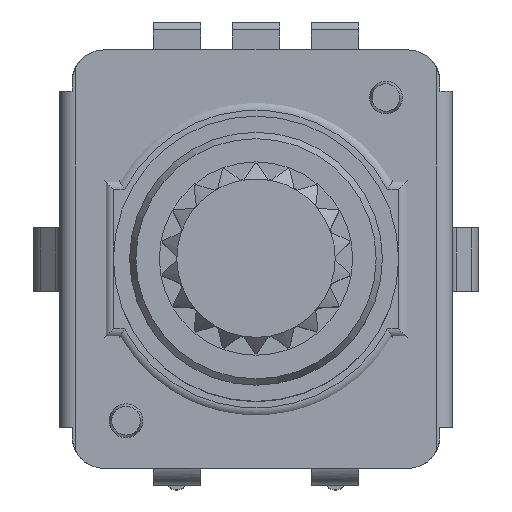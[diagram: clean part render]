
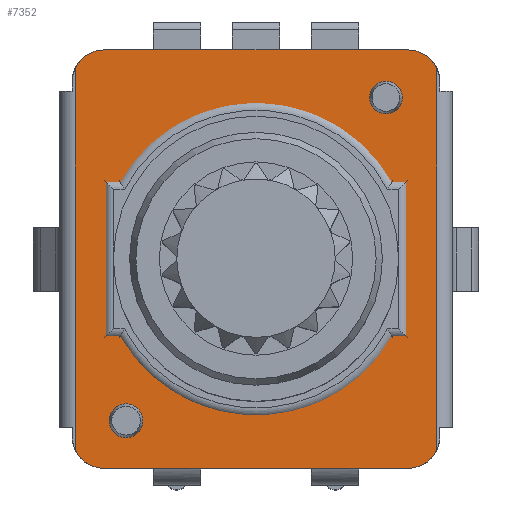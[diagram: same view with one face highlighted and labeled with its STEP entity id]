
A CAD part, top view. The second image highlights one B-rep face of the part: STEP entity #7352.
In plain terms, the highlighted planar face has unit normal (0, 0, 1).
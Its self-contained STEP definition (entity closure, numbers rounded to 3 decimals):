
#557=LINE($,#11437,#1389);
#575=LINE($,#11498,#1407);
#584=LINE($,#11532,#1416);
#585=LINE($,#11533,#1417);
#1389=VECTOR($,#9253,9.6);
#1407=VECTOR($,#9299,9.6);
#1416=VECTOR($,#9328,12.072);
#1417=VECTOR($,#9329,12.072);
#1905=PLANE($,#7890);
#2230=FACE_OUTER_BOUND($,#2605,.T.);
#2605=EDGE_LOOP($,(#5929,#5930,#5931,#5932,#5933,#5934,#5935,#5936));
#2885=CIRCLE($,#7865,1.);
#2886=CIRCLE($,#7869,1.);
#2891=CIRCLE($,#7879,1.);
#2892=CIRCLE($,#7882,1.);
#3434=VERTEX_POINT($,#11423);
#3436=VERTEX_POINT($,#11431);
#3437=VERTEX_POINT($,#11436);
#3440=VERTEX_POINT($,#11445);
#3452=VERTEX_POINT($,#11485);
#3453=VERTEX_POINT($,#11492);
#3454=VERTEX_POINT($,#11496);
#3456=VERTEX_POINT($,#11501);
#4375=EDGE_CURVE($,#3434,#3436,#2885,.T.);
#4378=EDGE_CURVE($,#3436,#3437,#557,.T.);
#4384=EDGE_CURVE($,#3437,#3440,#2886,.T.);
#4401=EDGE_CURVE($,#3452,#3453,#2891,.T.);
#4404=EDGE_CURVE($,#3453,#3454,#575,.T.);
#4407=EDGE_CURVE($,#3454,#3456,#2892,.T.);
#4419=EDGE_CURVE($,#3440,#3452,#584,.T.);
#4420=EDGE_CURVE($,#3456,#3434,#585,.T.);
#5929=ORIENTED_EDGE($,*,*,#4419,.F.);
#5930=ORIENTED_EDGE($,*,*,#4384,.F.);
#5931=ORIENTED_EDGE($,*,*,#4378,.F.);
#5932=ORIENTED_EDGE($,*,*,#4375,.F.);
#5933=ORIENTED_EDGE($,*,*,#4420,.F.);
#5934=ORIENTED_EDGE($,*,*,#4407,.F.);
#5935=ORIENTED_EDGE($,*,*,#4404,.F.);
#5936=ORIENTED_EDGE($,*,*,#4401,.F.);
#7352=ADVANCED_FACE($,(#2230),#1905,.T.);
#7865=AXIS2_PLACEMENT_3D($,#11432,#9247,#9248);
#7869=AXIS2_PLACEMENT_3D($,#11453,#9262,#9263);
#7879=AXIS2_PLACEMENT_3D($,#11493,#9293,#9294);
#7882=AXIS2_PLACEMENT_3D($,#11509,#9303,#9304);
#7890=AXIS2_PLACEMENT_3D($,#11531,#9326,#9327);
#9247=DIRECTION('center_axis',(0.,0.,
-1.));
#9248=DIRECTION('ref_axis',(0.707,-0.707,0.));
#9253=DIRECTION($,(-1.,0.,0.));
#9262=DIRECTION('center_axis',(0.,0.,
-1.));
#9263=DIRECTION('ref_axis',(-0.707,-0.707,0.));
#9293=DIRECTION('center_axis',(0.,0.,
-1.));
#9294=DIRECTION('ref_axis',(-0.707,0.707,0.));
#9299=DIRECTION($,(1.,0.,0.));
#9303=DIRECTION('center_axis',(0.,0.,
-1.));
#9304=DIRECTION('ref_axis',(0.707,0.707,0.));
#9326=DIRECTION('center_axis',(0.,0.,
1.));
#9327=DIRECTION('ref_axis',(1.,0.,0.));
#9328=DIRECTION($,(0.,1.,0.));
#9329=DIRECTION($,(0.,-1.,0.));
#11423=CARTESIAN_POINT('',(5.7,-6.036,6.6));
#11431=CARTESIAN_POINT('',(4.8,-6.6,6.6));
#11432=CARTESIAN_POINT('Origin',(4.8,-5.6,6.6));
#11436=CARTESIAN_POINT('',(-4.8,-6.6,6.6));
#11437=CARTESIAN_POINT($,(5.8,-6.6,6.6));
#11445=CARTESIAN_POINT('',(-5.7,-6.036,6.6));
#11453=CARTESIAN_POINT('Origin',(-4.8,-5.6,6.6));
#11485=CARTESIAN_POINT('',(-5.7,6.036,6.6));
#11492=CARTESIAN_POINT('',(-4.8,6.6,6.6));
#11493=CARTESIAN_POINT('Origin',(-4.8,5.6,6.6));
#11496=CARTESIAN_POINT('',(4.8,6.6,6.6));
#11498=CARTESIAN_POINT($,(-5.8,6.6,6.6));
#11501=CARTESIAN_POINT('',(5.7,6.036,6.6));
#11509=CARTESIAN_POINT('Origin',(4.8,5.6,6.6));
#11531=CARTESIAN_POINT('Origin',(0.,0.,
6.6));
#11532=CARTESIAN_POINT($,(-5.7,0.,6.6));
#11533=CARTESIAN_POINT($,(5.7,0.,6.6));
